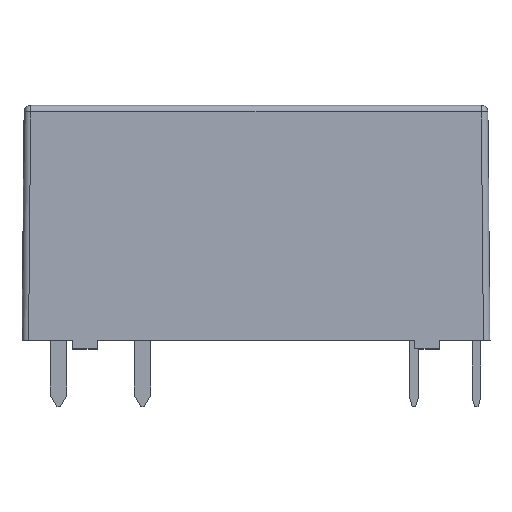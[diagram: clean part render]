
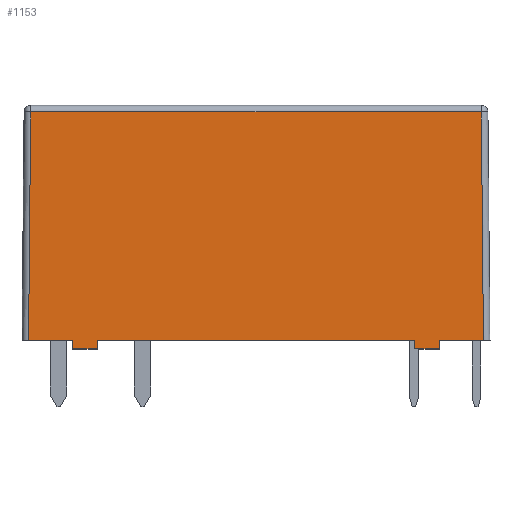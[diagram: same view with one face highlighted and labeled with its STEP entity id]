
A CAD part, top view. The second image highlights one B-rep face of the part: STEP entity #1153.
In plain terms, the highlighted planar face has unit normal (0, 0.003, 1).
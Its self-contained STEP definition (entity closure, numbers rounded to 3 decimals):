
#127=FACE_OUTER_BOUND('',#193,.T.);
#193=EDGE_LOOP('',(#981,#982,#983,#984,#985,#986,#987,#988,#989,#990,#991,
#992));
#294=LINE('',#1745,#434);
#296=LINE('',#1750,#436);
#310=LINE('',#1778,#450);
#313=LINE('',#1784,#453);
#319=LINE('',#1797,#459);
#326=LINE('',#1815,#466);
#327=LINE('',#1816,#467);
#329=LINE('',#1822,#469);
#334=LINE('',#1832,#474);
#335=LINE('',#1834,#475);
#336=LINE('',#1837,#476);
#337=LINE('',#1838,#477);
#434=VECTOR('',#1418,10.);
#436=VECTOR('',#1422,10.);
#450=VECTOR('',#1444,10.);
#453=VECTOR('',#1449,10.);
#459=VECTOR('',#1459,10.);
#466=VECTOR('',#1474,10.);
#467=VECTOR('',#1475,10.);
#469=VECTOR('',#1481,10.);
#474=VECTOR('',#1494,10.);
#475=VECTOR('',#1497,10.);
#476=VECTOR('',#1500,10.);
#477=VECTOR('',#1501,10.);
#549=VERTEX_POINT('',#1742);
#550=VERTEX_POINT('',#1744);
#551=VERTEX_POINT('',#1748);
#552=VERTEX_POINT('',#1749);
#561=VERTEX_POINT('',#1775);
#562=VERTEX_POINT('',#1777);
#563=VERTEX_POINT('',#1781);
#564=VERTEX_POINT('',#1783);
#569=VERTEX_POINT('',#1796);
#576=VERTEX_POINT('',#1813);
#578=VERTEX_POINT('',#1820);
#580=VERTEX_POINT('',#1836);
#674=EDGE_CURVE('',#550,#549,#294,.T.);
#676=EDGE_CURVE('',#551,#552,#296,.T.);
#690=EDGE_CURVE('',#562,#561,#310,.T.);
#693=EDGE_CURVE('',#564,#563,#313,.T.);
#699=EDGE_CURVE('',#569,#564,#319,.T.);
#710=EDGE_CURVE('',#561,#576,#326,.T.);
#711=EDGE_CURVE('',#549,#551,#327,.T.);
#714=EDGE_CURVE('',#578,#576,#329,.T.);
#719=EDGE_CURVE('',#562,#552,#334,.F.);
#720=EDGE_CURVE('',#550,#563,#335,.F.);
#721=EDGE_CURVE('',#580,#578,#336,.T.);
#722=EDGE_CURVE('',#569,#580,#337,.T.);
#981=ORIENTED_EDGE('',*,*,#674,.T.);
#982=ORIENTED_EDGE('',*,*,#711,.T.);
#983=ORIENTED_EDGE('',*,*,#676,.T.);
#984=ORIENTED_EDGE('',*,*,#719,.F.);
#985=ORIENTED_EDGE('',*,*,#690,.T.);
#986=ORIENTED_EDGE('',*,*,#710,.T.);
#987=ORIENTED_EDGE('',*,*,#714,.F.);
#988=ORIENTED_EDGE('',*,*,#721,.F.);
#989=ORIENTED_EDGE('',*,*,#722,.F.);
#990=ORIENTED_EDGE('',*,*,#699,.T.);
#991=ORIENTED_EDGE('',*,*,#693,.T.);
#992=ORIENTED_EDGE('',*,*,#720,.F.);
#1102=PLANE('',#1240);
#1153=ADVANCED_FACE('',(#127),#1102,.T.);
#1240=AXIS2_PLACEMENT_3D('',#1835,#1498,#1499);
#1418=DIRECTION('',(0.,1.,-0.003));
#1422=DIRECTION('',(0.,-1.,0.003));
#1444=DIRECTION('',(0.,1.,-0.003));
#1449=DIRECTION('',(0.,-1.,0.003));
#1459=DIRECTION('',(1.,0.,0.));
#1474=DIRECTION('',(1.,0.,0.));
#1475=DIRECTION('',(1.,0.,0.));
#1481=DIRECTION('',(0.009,-1.,0.003));
#1494=DIRECTION('',(1.,0.,0.));
#1497=DIRECTION('',(1.,0.,0.));
#1498=DIRECTION('center_axis',(0.,0.003,
1.));
#1499=DIRECTION('ref_axis',(-1.,0.,0.));
#1500=DIRECTION('',(1.,0.,0.));
#1501=DIRECTION('',(0.009,1.,-0.003));
#1742=CARTESIAN_POINT('',(-9.65,-14.3,2.647));
#1744=CARTESIAN_POINT('',(-9.65,-14.8,2.649));
#1745=CARTESIAN_POINT('',(-9.65,-7.397,2.629));
#1748=CARTESIAN_POINT('',(9.65,-14.3,2.647));
#1749=CARTESIAN_POINT('',(9.65,-14.8,2.649));
#1750=CARTESIAN_POINT('',(9.65,-7.147,2.629));
#1775=CARTESIAN_POINT('',(11.15,-14.3,2.647));
#1777=CARTESIAN_POINT('',(11.15,-14.8,2.649));
#1778=CARTESIAN_POINT('',(11.15,-7.647,2.63));
#1781=CARTESIAN_POINT('',(-11.15,-14.8,2.649));
#1783=CARTESIAN_POINT('',(-11.15,-14.3,2.647));
#1784=CARTESIAN_POINT('',(-11.15,-7.147,2.629));
#1796=CARTESIAN_POINT('',(-13.825,-14.3,2.647));
#1797=CARTESIAN_POINT('',(-0.317,-14.3,2.647));
#1813=CARTESIAN_POINT('',(13.825,-14.3,2.647));
#1815=CARTESIAN_POINT('',(12.623,-14.3,2.647));
#1816=CARTESIAN_POINT('',(2.223,-14.3,2.647));
#1820=CARTESIAN_POINT('',(13.699,-0.399,2.611));
#1822=CARTESIAN_POINT('',(13.695,0.003,2.61));
#1832=CARTESIAN_POINT('',(7.048,-14.8,2.649));
#1834=CARTESIAN_POINT('',(7.048,-14.8,2.649));
#1835=CARTESIAN_POINT('Origin',(14.095,0.,2.61));
#1836=CARTESIAN_POINT('',(-13.699,-0.399,2.611));
#1837=CARTESIAN_POINT('',(7.048,-0.399,2.611));
#1838=CARTESIAN_POINT('',(-13.694,0.124,2.61));
